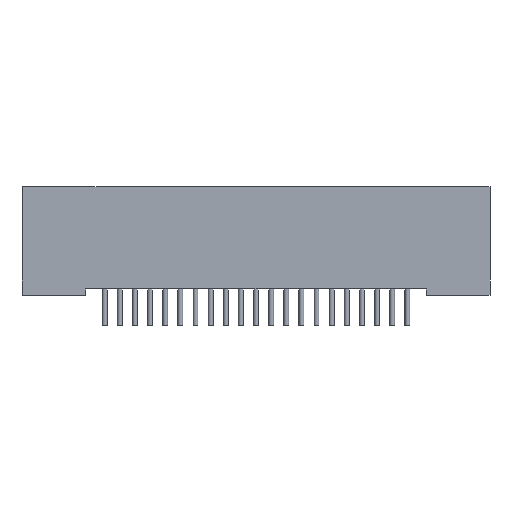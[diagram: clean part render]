
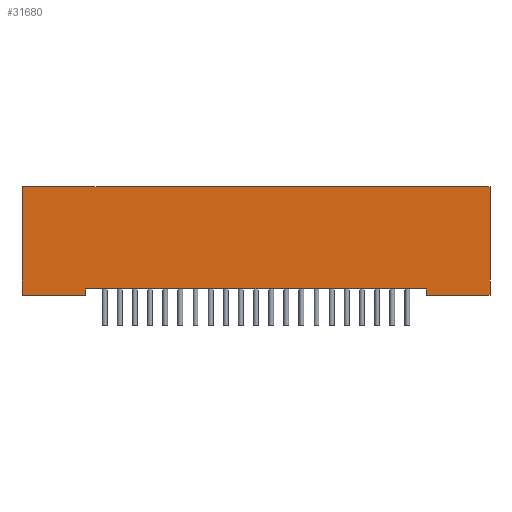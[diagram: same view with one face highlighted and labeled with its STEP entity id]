
A CAD part, front view. The second image highlights one B-rep face of the part: STEP entity #31680.
In plain terms, the highlighted planar face has unit normal (0, -1, 0).
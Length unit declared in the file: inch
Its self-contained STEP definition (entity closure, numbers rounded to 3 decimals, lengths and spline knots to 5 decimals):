
#3042 = ORIENTED_EDGE ( 'NONE', *, *, #36987, .T. ) ;
#3354 = AXIS2_PLACEMENT_3D ( 'NONE', #19670, #14422, #32274 ) ;
#3592 = LINE ( 'NONE', #39690, #11187 ) ;
#4818 = CARTESIAN_POINT ( 'NONE',  ( 0.773, -0.0625, -0.358 ) ) ;
#6466 = DIRECTION ( 'NONE',  ( 1., 0., 0. ) ) ;
#7673 = DIRECTION ( 'NONE',  ( -1., 0., 0. ) ) ;
#9335 = LINE ( 'NONE', #30760, #53381 ) ;
#10253 = FACE_OUTER_BOUND ( 'NONE', #19553, .T. ) ;
#10856 = VERTEX_POINT ( 'NONE', #50323 ) ;
#10872 = CARTESIAN_POINT ( 'NONE',  ( -0.773, -0.0625, -0.338 ) ) ;
#11187 = VECTOR ( 'NONE', #34707, 39.37008 ) ;
#11458 = DIRECTION ( 'NONE',  ( 0., 0., 1. ) ) ;
#12133 = VECTOR ( 'NONE', #51399, 39.37008 ) ;
#12367 = EDGE_CURVE ( 'NONE', #38052, #30983, #24645, .T. ) ;
#12371 = VECTOR ( 'NONE', #20637, 39.37008 ) ;
#14422 = DIRECTION ( 'NONE',  ( 0., -1., 0. ) ) ;
#15232 = EDGE_CURVE ( 'NONE', #10856, #22636, #15328, .T. ) ;
#15328 = LINE ( 'NONE', #10872, #20322 ) ;
#15924 = EDGE_CURVE ( 'NONE', #25738, #38052, #34138, .T. ) ;
#16268 = EDGE_CURVE ( 'NONE', #38783, #37420, #43775, .T. ) ;
#16821 = CARTESIAN_POINT ( 'NONE',  ( -0.773, -0.0625, -0.338 ) ) ;
#19103 = CARTESIAN_POINT ( 'NONE',  ( 0.563, -0.0625, -0.338 ) ) ;
#19553 = EDGE_LOOP ( 'NONE', ( #53509, #27110, #39800, #3042, #22195, #33680, #48470, #41494 ) ) ;
#19670 = CARTESIAN_POINT ( 'NONE',  ( -0.773, -0.0625, -0.338 ) ) ;
#20322 = VECTOR ( 'NONE', #6466, 39.37008 ) ;
#20637 = DIRECTION ( 'NONE',  ( 0., 0., 1. ) ) ;
#22195 = ORIENTED_EDGE ( 'NONE', *, *, #15232, .T. ) ;
#22636 = VERTEX_POINT ( 'NONE', #19103 ) ;
#24645 = LINE ( 'NONE', #27394, #12133 ) ;
#24921 = LINE ( 'NONE', #28474, #34015 ) ;
#25738 = VERTEX_POINT ( 'NONE', #36837 ) ;
#27110 = ORIENTED_EDGE ( 'NONE', *, *, #15924, .F. ) ;
#27394 = CARTESIAN_POINT ( 'NONE',  ( -0.773, -0.0625, 0. ) ) ;
#28438 = PLANE ( 'NONE',  #3354 ) ;
#28474 = CARTESIAN_POINT ( 'NONE',  ( -0.563, -0.0625, -0.358 ) ) ;
#29953 = CARTESIAN_POINT ( 'NONE',  ( -0.773, -0.0625, -0.358 ) ) ;
#30760 = CARTESIAN_POINT ( 'NONE',  ( 0.773, -0.0625, -0.338 ) ) ;
#30983 = VERTEX_POINT ( 'NONE', #31839 ) ;
#31420 = EDGE_CURVE ( 'NONE', #32374, #25738, #42616, .T. ) ;
#31680 = ADVANCED_FACE ( 'NONE', ( #10253 ), #28438, .T. ) ;
#31839 = CARTESIAN_POINT ( 'NONE',  ( 0.773, -0.0625, 0. ) ) ;
#32274 = DIRECTION ( 'NONE',  ( 0., 0., -1. ) ) ;
#32374 = VERTEX_POINT ( 'NONE', #46479 ) ;
#33012 = EDGE_CURVE ( 'NONE', #38783, #30983, #9335, .T. ) ;
#33680 = ORIENTED_EDGE ( 'NONE', *, *, #52852, .F. ) ;
#34015 = VECTOR ( 'NONE', #11458, 39.37008 ) ;
#34138 = LINE ( 'NONE', #16821, #12371 ) ;
#34636 = CARTESIAN_POINT ( 'NONE',  ( -0.773, -0.0625, 0. ) ) ;
#34707 = DIRECTION ( 'NONE',  ( 0., 0., 1. ) ) ;
#35797 = DIRECTION ( 'NONE',  ( -1., 0., 0. ) ) ;
#36837 = CARTESIAN_POINT ( 'NONE',  ( -0.773, -0.0625, -0.358 ) ) ;
#36987 = EDGE_CURVE ( 'NONE', #32374, #10856, #24921, .T. ) ;
#37420 = VERTEX_POINT ( 'NONE', #40707 ) ;
#38052 = VERTEX_POINT ( 'NONE', #34636 ) ;
#38783 = VERTEX_POINT ( 'NONE', #4818 ) ;
#39690 = CARTESIAN_POINT ( 'NONE',  ( 0.563, -0.0625, -0.358 ) ) ;
#39800 = ORIENTED_EDGE ( 'NONE', *, *, #31420, .F. ) ;
#40707 = CARTESIAN_POINT ( 'NONE',  ( 0.563, -0.0625, -0.358 ) ) ;
#41494 = ORIENTED_EDGE ( 'NONE', *, *, #33012, .T. ) ;
#42616 = LINE ( 'NONE', #29953, #55832 ) ;
#43775 = LINE ( 'NONE', #53745, #56451 ) ;
#46479 = CARTESIAN_POINT ( 'NONE',  ( -0.563, -0.0625, -0.358 ) ) ;
#48470 = ORIENTED_EDGE ( 'NONE', *, *, #16268, .F. ) ;
#48698 = DIRECTION ( 'NONE',  ( 0., 0., 1. ) ) ;
#50323 = CARTESIAN_POINT ( 'NONE',  ( -0.563, -0.0625, -0.338 ) ) ;
#51399 = DIRECTION ( 'NONE',  ( 1., 0., 0. ) ) ;
#52852 = EDGE_CURVE ( 'NONE', #37420, #22636, #3592, .T. ) ;
#53381 = VECTOR ( 'NONE', #48698, 39.37008 ) ;
#53509 = ORIENTED_EDGE ( 'NONE', *, *, #12367, .F. ) ;
#53745 = CARTESIAN_POINT ( 'NONE',  ( 0.773, -0.0625, -0.358 ) ) ;
#55832 = VECTOR ( 'NONE', #7673, 39.37008 ) ;
#56451 = VECTOR ( 'NONE', #35797, 39.37008 ) ;
